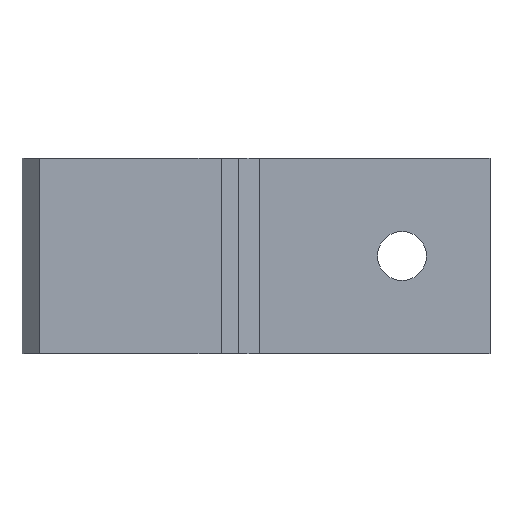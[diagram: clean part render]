
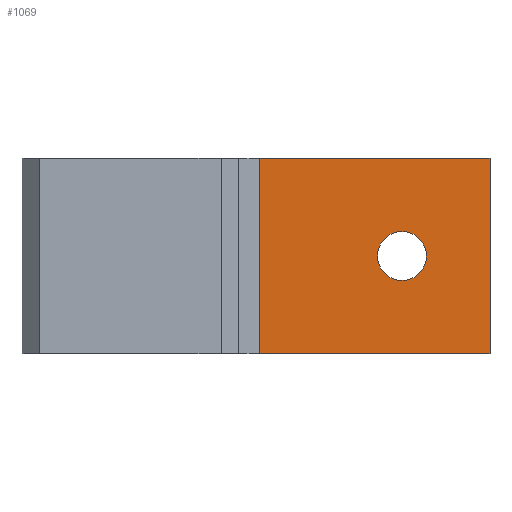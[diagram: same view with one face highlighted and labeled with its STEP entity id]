
A CAD part, left-side view. The second image highlights one B-rep face of the part: STEP entity #1069.
In plain terms, the highlighted planar face has unit normal (-1, 0, 0).
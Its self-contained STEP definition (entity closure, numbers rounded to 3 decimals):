
#2 = LINE ( 'NONE', #712, #819 ) ;
#16 = CARTESIAN_POINT ( 'NONE',  ( -6., -12.6, 28. ) ) ;
#25 = VERTEX_POINT ( 'NONE', #355 ) ;
#41 = VECTOR ( 'NONE', #90, 1000. ) ;
#55 = ORIENTED_EDGE ( 'NONE', *, *, #133, .T. ) ;
#90 = DIRECTION ( 'NONE',  ( 0., 0., -1. ) ) ;
#93 = VERTEX_POINT ( 'NONE', #550 ) ;
#133 = EDGE_CURVE ( 'NONE', #215, #93, #2, .T. ) ;
#199 = CARTESIAN_POINT ( 'NONE',  ( -6., -12.6, 28. ) ) ;
#201 = DIRECTION ( 'NONE',  ( 0., -1., 0. ) ) ;
#215 = VERTEX_POINT ( 'NONE', #1059 ) ;
#262 = CARTESIAN_POINT ( 'NONE',  ( -6., 20.4, 28. ) ) ;
#325 = VECTOR ( 'NONE', #692, 1000. ) ;
#355 = CARTESIAN_POINT ( 'NONE',  ( -6., 0., 10.5 ) ) ;
#384 = CARTESIAN_POINT ( 'NONE',  ( -6., 20.4, 28. ) ) ;
#389 = LINE ( 'NONE', #199, #591 ) ;
#397 = AXIS2_PLACEMENT_3D ( 'NONE', #16, #868, #611 ) ;
#497 = ORIENTED_EDGE ( 'NONE', *, *, #908, .T. ) ;
#505 = EDGE_CURVE ( 'NONE', #556, #93, #998, .T. ) ;
#506 = CARTESIAN_POINT ( 'NONE',  ( -6., 0., 14. ) ) ;
#509 = AXIS2_PLACEMENT_3D ( 'NONE', #937, #842, #921 ) ;
#534 = ORIENTED_EDGE ( 'NONE', *, *, #734, .F. ) ;
#550 = CARTESIAN_POINT ( 'NONE',  ( -6., -12.6, 0. ) ) ;
#556 = VERTEX_POINT ( 'NONE', #865 ) ;
#570 = AXIS2_PLACEMENT_3D ( 'NONE', #506, #848, #924 ) ;
#576 = VERTEX_POINT ( 'NONE', #965 ) ;
#591 = VECTOR ( 'NONE', #980, 1000. ) ;
#601 = CARTESIAN_POINT ( 'NONE',  ( -6., -12.6, 28. ) ) ;
#606 = EDGE_CURVE ( 'NONE', #882, #215, #753, .T. ) ;
#611 = DIRECTION ( 'NONE',  ( 0., 0., -1. ) ) ;
#653 = CIRCLE ( 'NONE', #509, 3.5 ) ;
#673 = EDGE_LOOP ( 'NONE', ( #1098, #497 ) ) ;
#677 = FACE_BOUND ( 'NONE', #673, .T. ) ;
#692 = DIRECTION ( 'NONE',  ( 0., 0., -1. ) ) ;
#706 = PLANE ( 'NONE',  #397 ) ;
#712 = CARTESIAN_POINT ( 'NONE',  ( -6., -12.6, 0. ) ) ;
#734 = EDGE_CURVE ( 'NONE', #882, #556, #389, .T. ) ;
#753 = LINE ( 'NONE', #262, #325 ) ;
#758 = CIRCLE ( 'NONE', #570, 3.5 ) ;
#774 = ORIENTED_EDGE ( 'NONE', *, *, #606, .T. ) ;
#819 = VECTOR ( 'NONE', #201, 1000. ) ;
#837 = EDGE_LOOP ( 'NONE', ( #55, #1097, #534, #774 ) ) ;
#842 = DIRECTION ( 'NONE',  ( 1., 0., 0. ) ) ;
#848 = DIRECTION ( 'NONE',  ( 1., 0., 0. ) ) ;
#865 = CARTESIAN_POINT ( 'NONE',  ( -6., -12.6, 28. ) ) ;
#868 = DIRECTION ( 'NONE',  ( 1., 0., 0. ) ) ;
#882 = VERTEX_POINT ( 'NONE', #384 ) ;
#908 = EDGE_CURVE ( 'NONE', #576, #25, #758, .T. ) ;
#921 = DIRECTION ( 'NONE',  ( 0., 0., -1. ) ) ;
#924 = DIRECTION ( 'NONE',  ( 0., 0., -1. ) ) ;
#928 = EDGE_CURVE ( 'NONE', #25, #576, #653, .T. ) ;
#937 = CARTESIAN_POINT ( 'NONE',  ( -6., 0., 14. ) ) ;
#965 = CARTESIAN_POINT ( 'NONE',  ( -6., 0., 17.5 ) ) ;
#980 = DIRECTION ( 'NONE',  ( 0., -1., 0. ) ) ;
#998 = LINE ( 'NONE', #601, #41 ) ;
#1015 = FACE_OUTER_BOUND ( 'NONE', #837, .T. ) ;
#1059 = CARTESIAN_POINT ( 'NONE',  ( -6., 20.4, 0. ) ) ;
#1069 = ADVANCED_FACE ( 'NONE', ( #677, #1015 ), #706, .F. ) ;
#1097 = ORIENTED_EDGE ( 'NONE', *, *, #505, .F. ) ;
#1098 = ORIENTED_EDGE ( 'NONE', *, *, #928, .T. ) ;
